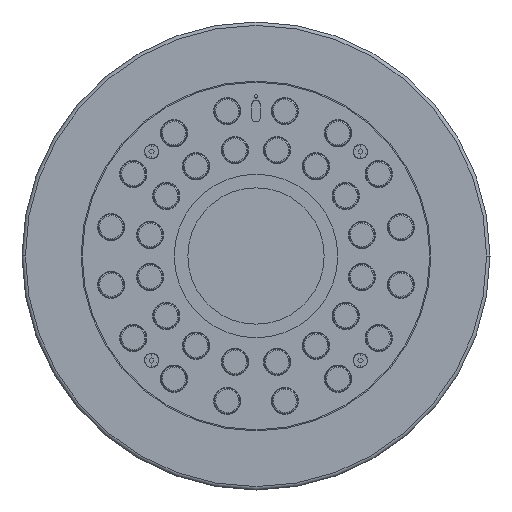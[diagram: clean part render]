
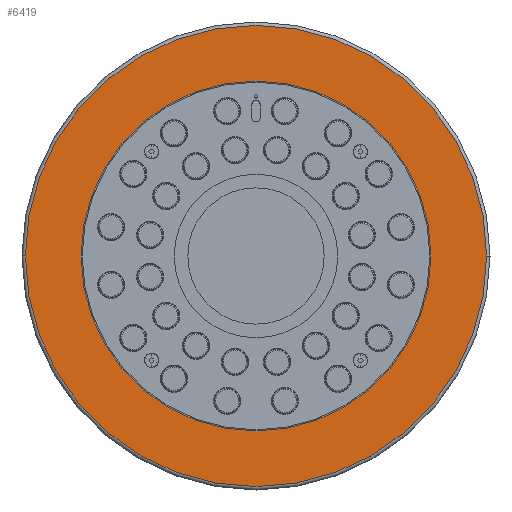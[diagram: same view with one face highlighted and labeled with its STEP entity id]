
A CAD part, front view. The second image highlights one B-rep face of the part: STEP entity #6419.
In plain terms, the highlighted planar face has unit normal (0, -1, 0).
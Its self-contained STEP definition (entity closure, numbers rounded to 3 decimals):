
#271 = AXIS2_PLACEMENT_3D ( 'NONE', #22278, #24898, #8899 ) ;
#1003 = PLANE ( 'NONE',  #9048 ) ;
#2956 = AXIS2_PLACEMENT_3D ( 'NONE', #5741, #23387, #23688 ) ;
#3316 = EDGE_LOOP ( 'NONE', ( #21046, #24860 ) ) ;
#4349 = ORIENTED_EDGE ( 'NONE', *, *, #21679, .F. ) ;
#5072 = CARTESIAN_POINT ( 'NONE',  ( 0., 0., 0. ) ) ;
#5741 = CARTESIAN_POINT ( 'NONE',  ( 0., 0., 0. ) ) ;
#6419 = ADVANCED_FACE ( 'NONE', ( #25535, #28038 ), #1003, .F. ) ;
#6973 = DIRECTION ( 'NONE',  ( 0., -1., 0. ) ) ;
#7112 = DIRECTION ( 'NONE',  ( 1., 0., 0. ) ) ;
#7367 = CARTESIAN_POINT ( 'NONE',  ( 0., 0., 0. ) ) ;
#8177 = AXIS2_PLACEMENT_3D ( 'NONE', #5072, #6973, #7112 ) ;
#8899 = DIRECTION ( 'NONE',  ( 1., 0., 0. ) ) ;
#9048 = AXIS2_PLACEMENT_3D ( 'NONE', #14677, #20988, #14536 ) ;
#9138 = AXIS2_PLACEMENT_3D ( 'NONE', #7367, #27198, #9861 ) ;
#9195 = CIRCLE ( 'NONE', #271, 77. ) ;
#9861 = DIRECTION ( 'NONE',  ( 1., 0., 0. ) ) ;
#12447 = CIRCLE ( 'NONE', #9138, 77. ) ;
#12851 = EDGE_CURVE ( 'NONE', #23868, #13169, #12447, .T. ) ;
#13169 = VERTEX_POINT ( 'NONE', #14105 ) ;
#13530 = VERTEX_POINT ( 'NONE', #15112 ) ;
#14105 = CARTESIAN_POINT ( 'NONE',  ( -77., 0., 0. ) ) ;
#14536 = DIRECTION ( 'NONE',  ( -1., 0., 0. ) ) ;
#14677 = CARTESIAN_POINT ( 'NONE',  ( -101.5, 0., 0. ) ) ;
#15112 = CARTESIAN_POINT ( 'NONE',  ( 101.5, 0., 0. ) ) ;
#15309 = EDGE_LOOP ( 'NONE', ( #16574, #4349 ) ) ;
#16070 = VERTEX_POINT ( 'NONE', #16890 ) ;
#16574 = ORIENTED_EDGE ( 'NONE', *, *, #12851, .F. ) ;
#16890 = CARTESIAN_POINT ( 'NONE',  ( -101.5, 0., 0. ) ) ;
#17272 = CARTESIAN_POINT ( 'NONE',  ( 77., 0., 0. ) ) ;
#17899 = EDGE_CURVE ( 'NONE', #16070, #13530, #20391, .T. ) ;
#20391 = CIRCLE ( 'NONE', #8177, 101.5 ) ;
#20988 = DIRECTION ( 'NONE',  ( 0., 1., 0. ) ) ;
#21046 = ORIENTED_EDGE ( 'NONE', *, *, #27251, .T. ) ;
#21679 = EDGE_CURVE ( 'NONE', #13169, #23868, #9195, .T. ) ;
#22278 = CARTESIAN_POINT ( 'NONE',  ( 0., 0., 0. ) ) ;
#23387 = DIRECTION ( 'NONE',  ( 0., -1., 0. ) ) ;
#23688 = DIRECTION ( 'NONE',  ( 1., 0., 0. ) ) ;
#23868 = VERTEX_POINT ( 'NONE', #17272 ) ;
#24860 = ORIENTED_EDGE ( 'NONE', *, *, #17899, .T. ) ;
#24898 = DIRECTION ( 'NONE',  ( 0., -1., 0. ) ) ;
#25535 = FACE_BOUND ( 'NONE', #15309, .T. ) ;
#27198 = DIRECTION ( 'NONE',  ( 0., -1., 0. ) ) ;
#27251 = EDGE_CURVE ( 'NONE', #13530, #16070, #27349, .T. ) ;
#27349 = CIRCLE ( 'NONE', #2956, 101.5 ) ;
#28038 = FACE_OUTER_BOUND ( 'NONE', #3316, .T. ) ;
